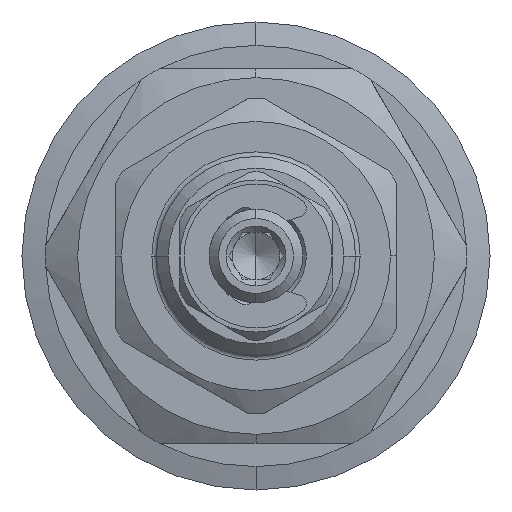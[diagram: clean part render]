
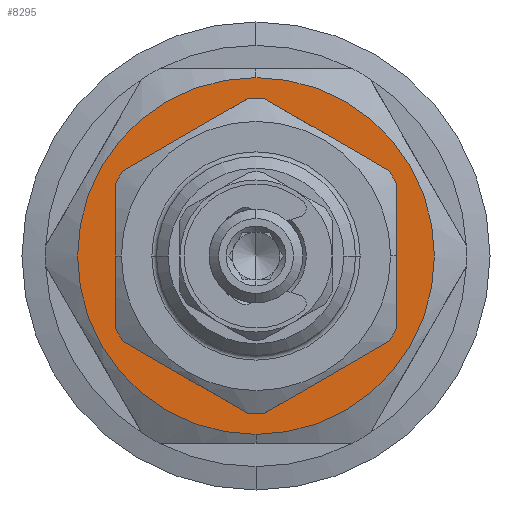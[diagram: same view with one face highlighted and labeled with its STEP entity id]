
A CAD part, left-side view. The second image highlights one B-rep face of the part: STEP entity #8295.
In plain terms, the highlighted planar face has unit normal (-1, 0, 0).
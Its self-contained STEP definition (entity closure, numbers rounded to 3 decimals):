
#695 = EDGE_LOOP ( 'NONE', ( #14825, #14826 ) ) ;
#1288 = AXIS2_PLACEMENT_3D ( 'NONE', #8745, #8744, #8756 ) ;
#3452 = CARTESIAN_POINT ( 'NONE',  ( -18.4, 0., 15.25 ) ) ;
#3454 = CARTESIAN_POINT ( 'NONE',  ( -18.4, 0., -15.25 ) ) ;
#4387 = AXIS2_PLACEMENT_3D ( 'NONE', #9734, #9733, #9732 ) ;
#4392 = AXIS2_PLACEMENT_3D ( 'NONE', #9085, #9084, #9075 ) ;
#4582 = EDGE_CURVE ( 'NONE', #5479, #5481, #5285, .T. ) ;
#4596 = EDGE_CURVE ( 'NONE', #5481, #5479, #5287, .T. ) ;
#5285 = CIRCLE ( 'NONE', #4392, 15.25 ) ;
#5287 = CIRCLE ( 'NONE', #4387, 15.25 ) ;
#5479 = VERTEX_POINT ( 'NONE', #3454 ) ;
#5481 = VERTEX_POINT ( 'NONE', #3452 ) ;
#7849 = FACE_OUTER_BOUND ( 'NONE', #695, .T. ) ;
#8295 = ADVANCED_FACE ( 'NONE', ( #7849 ), #8831, .T. ) ;
#8744 = DIRECTION ( 'NONE',  ( -1., 0., 0. ) ) ;
#8745 = CARTESIAN_POINT ( 'NONE',  ( -18.4, 0., 0. ) ) ;
#8756 = DIRECTION ( 'NONE',  ( 0., 0., 1. ) ) ;
#8831 = PLANE ( 'NONE',  #1288 ) ;
#9075 = DIRECTION ( 'NONE',  ( 0., 0., -1. ) ) ;
#9084 = DIRECTION ( 'NONE',  ( 1., 0., 0. ) ) ;
#9085 = CARTESIAN_POINT ( 'NONE',  ( -18.4, 0., 0. ) ) ;
#9732 = DIRECTION ( 'NONE',  ( 0., 0., -1. ) ) ;
#9733 = DIRECTION ( 'NONE',  ( 1., 0., 0. ) ) ;
#9734 = CARTESIAN_POINT ( 'NONE',  ( -18.4, 0., 0. ) ) ;
#14825 = ORIENTED_EDGE ( 'NONE', *, *, #4582, .F. ) ;
#14826 = ORIENTED_EDGE ( 'NONE', *, *, #4596, .F. ) ;
